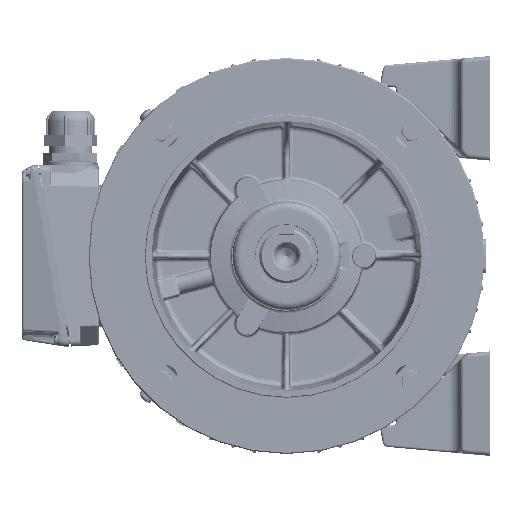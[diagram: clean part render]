
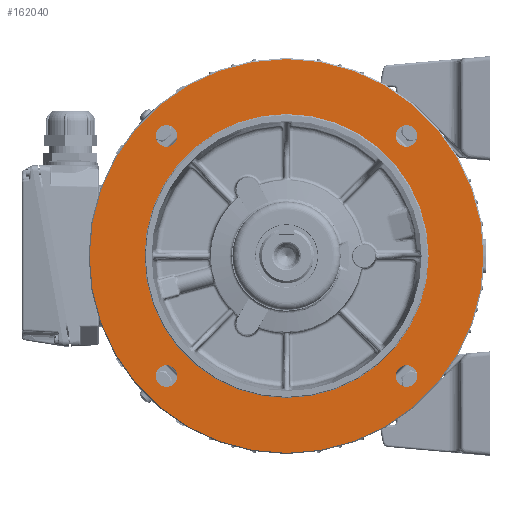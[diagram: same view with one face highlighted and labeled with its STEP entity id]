
A CAD part, left-side view. The second image highlights one B-rep face of the part: STEP entity #162040.
In plain terms, the highlighted planar face has unit normal (-1, 0, 0).
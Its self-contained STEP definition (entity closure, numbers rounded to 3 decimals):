
#921=PLANE('',#172873);
#30841=CIRCLE('',#172859,125.5);
#30843=CIRCLE('',#172862,174.);
#30849=CIRCLE('',#172874,9.5);
#30850=CIRCLE('',#172875,9.5);
#30851=CIRCLE('',#172876,9.5);
#30852=CIRCLE('',#172877,9.5);
#46640=ORIENTED_EDGE('',*,*,#96214,.T.);
#46641=ORIENTED_EDGE('',*,*,#96212,.F.);
#46642=ORIENTED_EDGE('',*,*,#96237,.F.);
#46643=ORIENTED_EDGE('',*,*,#96238,.F.);
#46644=ORIENTED_EDGE('',*,*,#96239,.F.);
#46645=ORIENTED_EDGE('',*,*,#96240,.F.);
#96212=EDGE_CURVE('',#121114,#121114,#30841,.T.);
#96214=EDGE_CURVE('',#121116,#121116,#30843,.T.);
#96237=EDGE_CURVE('',#121129,#121129,#30849,.T.);
#96238=EDGE_CURVE('',#121130,#121130,#30850,.T.);
#96239=EDGE_CURVE('',#121131,#121131,#30851,.T.);
#96240=EDGE_CURVE('',#121132,#121132,#30852,.T.);
#121114=VERTEX_POINT('',#244501);
#121116=VERTEX_POINT('',#244506);
#121129=VERTEX_POINT('',#244719);
#121130=VERTEX_POINT('',#244721);
#121131=VERTEX_POINT('',#244723);
#121132=VERTEX_POINT('',#244725);
#137523=EDGE_LOOP('',(#46640));
#137524=EDGE_LOOP('',(#46641));
#137525=EDGE_LOOP('',(#46642));
#137526=EDGE_LOOP('',(#46643));
#137527=EDGE_LOOP('',(#46644));
#137528=EDGE_LOOP('',(#46645));
#148797=FACE_BOUND('',#137523,.T.);
#148798=FACE_BOUND('',#137524,.T.);
#148799=FACE_BOUND('',#137525,.T.);
#148800=FACE_BOUND('',#137526,.T.);
#148801=FACE_BOUND('',#137527,.T.);
#148802=FACE_BOUND('',#137528,.T.);
#162040=ADVANCED_FACE('',(#148797,#148798,#148799,#148800,#148801,#148802),
#921,.F.);
#172859=AXIS2_PLACEMENT_3D('',#244500,#189387,#189388);
#172862=AXIS2_PLACEMENT_3D('',#244505,#189393,#189394);
#172873=AXIS2_PLACEMENT_3D('',#244717,#189420,#189421);
#172874=AXIS2_PLACEMENT_3D('',#244718,#189422,#189423);
#172875=AXIS2_PLACEMENT_3D('',#244720,#189424,#189425);
#172876=AXIS2_PLACEMENT_3D('',#244722,#189426,#189427);
#172877=AXIS2_PLACEMENT_3D('',#244724,#189428,#189429);
#189387=DIRECTION('',(-1.,0.,0.));
#189388=DIRECTION('',(0.,0.,1.));
#189393=DIRECTION('',(-1.,0.,0.));
#189394=DIRECTION('',(0.,0.,1.));
#189420=DIRECTION('',(1.,0.,0.));
#189421=DIRECTION('',(0.,0.,-1.));
#189422=DIRECTION('',(-1.,0.,0.));
#189423=DIRECTION('',(0.,0.,1.));
#189424=DIRECTION('',(-1.,0.,0.));
#189425=DIRECTION('',(0.,-1.,0.));
#189426=DIRECTION('',(-1.,0.,0.));
#189427=DIRECTION('',(0.,0.,-1.));
#189428=DIRECTION('',(-1.,0.,0.));
#189429=DIRECTION('',(0.,1.,0.));
#244500=CARTESIAN_POINT('',(-20.,0.,0.));
#244501=CARTESIAN_POINT('',(-20.,0.,125.5));
#244505=CARTESIAN_POINT('',(-20.,0.,0.));
#244506=CARTESIAN_POINT('',(-20.,0.,174.));
#244717=CARTESIAN_POINT('',(-20.,0.,125.5));
#244718=CARTESIAN_POINT('',(-20.,106.066,106.066));
#244719=CARTESIAN_POINT('',(-20.,106.066,115.566));
#244720=CARTESIAN_POINT('',(-20.,-106.066,106.066));
#244721=CARTESIAN_POINT('',(-20.,-115.566,106.066));
#244722=CARTESIAN_POINT('',(-20.,-106.066,-106.066));
#244723=CARTESIAN_POINT('',(-20.,-106.066,-115.566));
#244724=CARTESIAN_POINT('',(-20.,106.066,-106.066));
#244725=CARTESIAN_POINT('',(-20.,115.566,-106.066));
